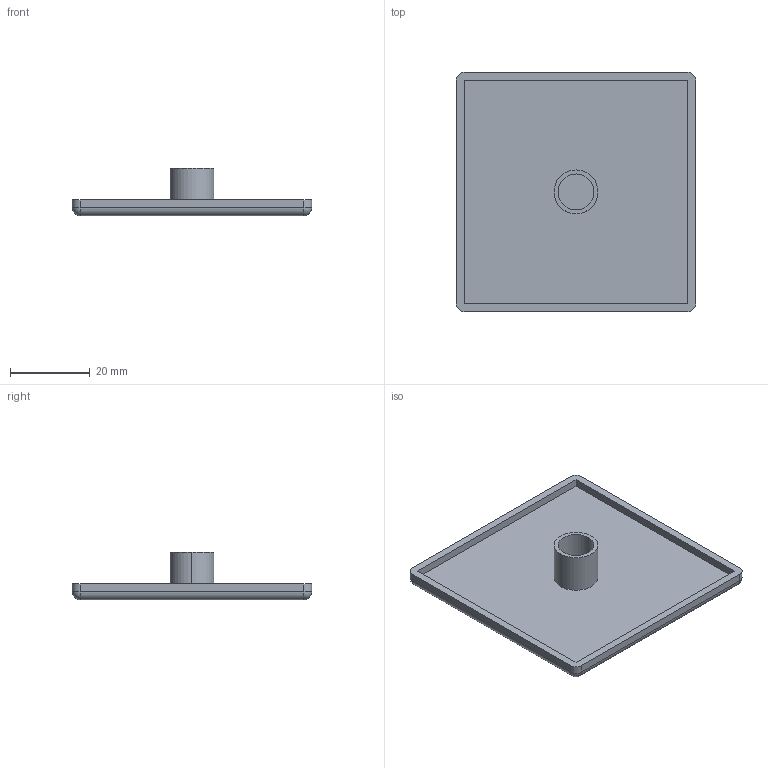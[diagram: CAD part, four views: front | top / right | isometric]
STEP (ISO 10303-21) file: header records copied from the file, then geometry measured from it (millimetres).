
FILE_DESCRIPTION (( 'STEP AP203' ), '1' );
FILE_NAME ('172-CE-CP-6060W.STEP', '2015-07-09T09:14:25', ( '' ), ( '' ), 'SwSTEP 2.0', 'SolidWorks 2013', '' );
FILE_SCHEMA (( 'CONFIG_CONTROL_DESIGN' ));
Length unit declared in the file: millimetre
Products named in the file (1): 172-CE-CP-6060W
Bounding box: 60 x 60 x 12 mm (x, y, z)
Volume: 8227.8 mm3; surface area: 9010.9 mm2
Topology: 1 solids, 1 shells, 29 faces, 64 edges, 36 vertices
Faces by surface type: plane 13, cylinder 12, sphere 4
Entity records: 839 total; most frequent: DIRECTION 144, CARTESIAN_POINT 126, ORIENTED_EDGE 120, EDGE_CURVE 60, AXIS2_PLACEMENT_3D 54, LINE 36, VERTEX_POINT 36, VECTOR 36
